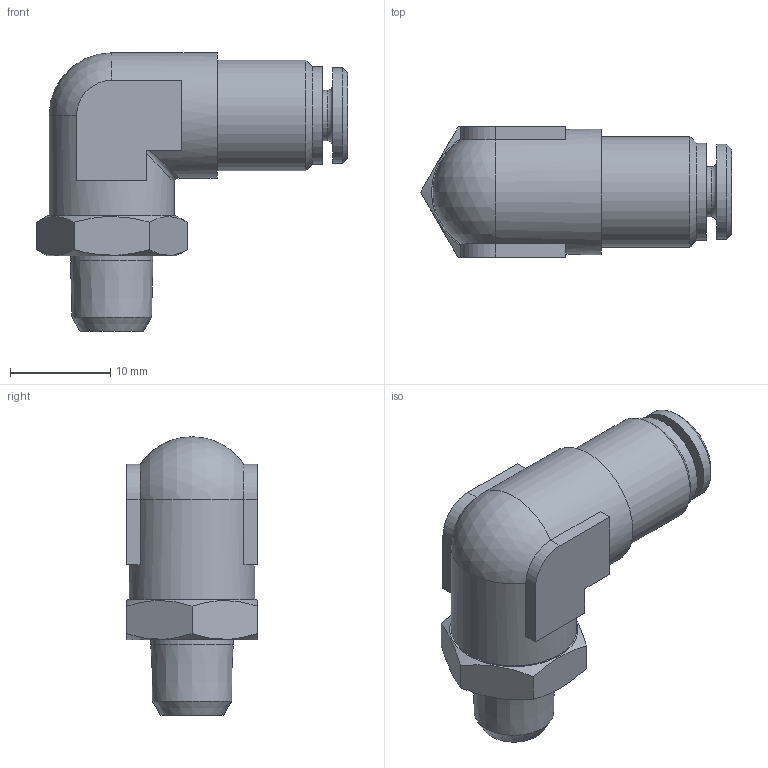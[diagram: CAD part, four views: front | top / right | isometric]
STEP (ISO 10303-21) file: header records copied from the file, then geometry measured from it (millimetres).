
FILE_DESCRIPTION(/* description */ (''),/* implementation_level */ '2;1');
FILE_NAME(/* name */ '9911_0703_0440_HSV-Winklig-Dre-Kon',/* time_stamp */ '2017-05-08T11:34:49+02:00',/* author */ (''),/* organization */ (''),/* preprocessor_version */ 'ST-DEVELOPER v16.5',/* originating_system */ 'HiCAD 2016 2102.1 Build 498',/* authorisation */ '');
FILE_SCHEMA (('AUTOMOTIVE_DESIGN { 1 0 10303 214 1 1 1 1 }'));
Length unit declared in the file: millimetre
Products named in the file (4): Root; ONLINE_DR4_HSV_26.11.15; ROTATIONSTEIL_0; RIVOLUZIONE_0
Assembly tree (3 placements, depth 2):
  Root
    ONLINE_DR4_HSV_26.11.15
    ROTATIONSTEIL_0
    RIVOLUZIONE_0
Bounding box: 31.01 x 13 x 27.75 mm (x, y, z)
Volume: 3692.7 mm3; surface area: 3679.6 mm2
Topology: 3 solids, 3 shells, 79 faces, 170 edges, 105 vertices
Faces by surface type: plane 35, cylinder 21, cone 18, torus 3, sphere 1, bspline 1
Full cylindrical faces by diameter (mm): 3 x1, 4 x1, 4.2 x2, 5 x1, 6 x1, 7.3 x1, 8 x1, 8.219 x1, 8.3 x1, 9 x2, 9.5 x1, 9.7 x1, 10.1 x2, 11 x1, 12.5 x2
Entity records: 3645 total; most frequent: CARTESIAN_POINT 786, DIRECTION 358, PRESENTATION_STYLE_ASSIGNMENT 247, COLOUR_RGB 246, DRAUGHTING_PRE_DEFINED_CURVE_FONT 244, CURVE_STYLE 244, OVER_RIDING_STYLED_ITEM 244, ORIENTED_EDGE 244
